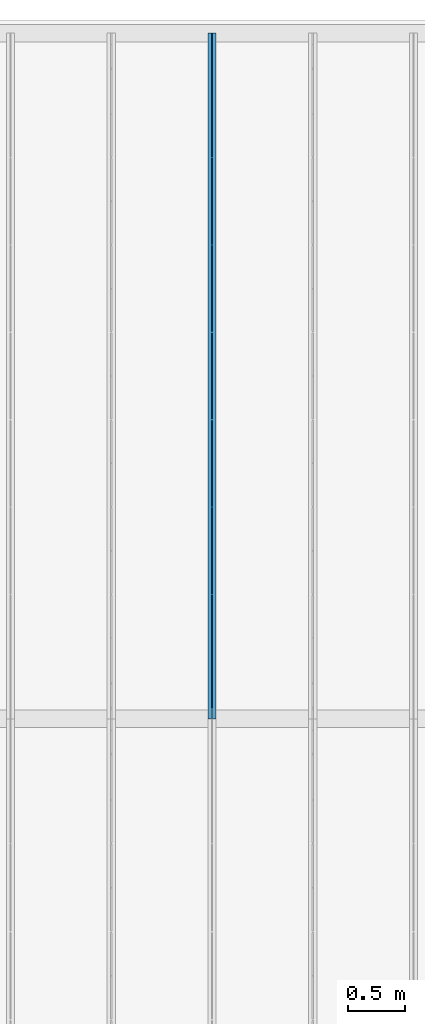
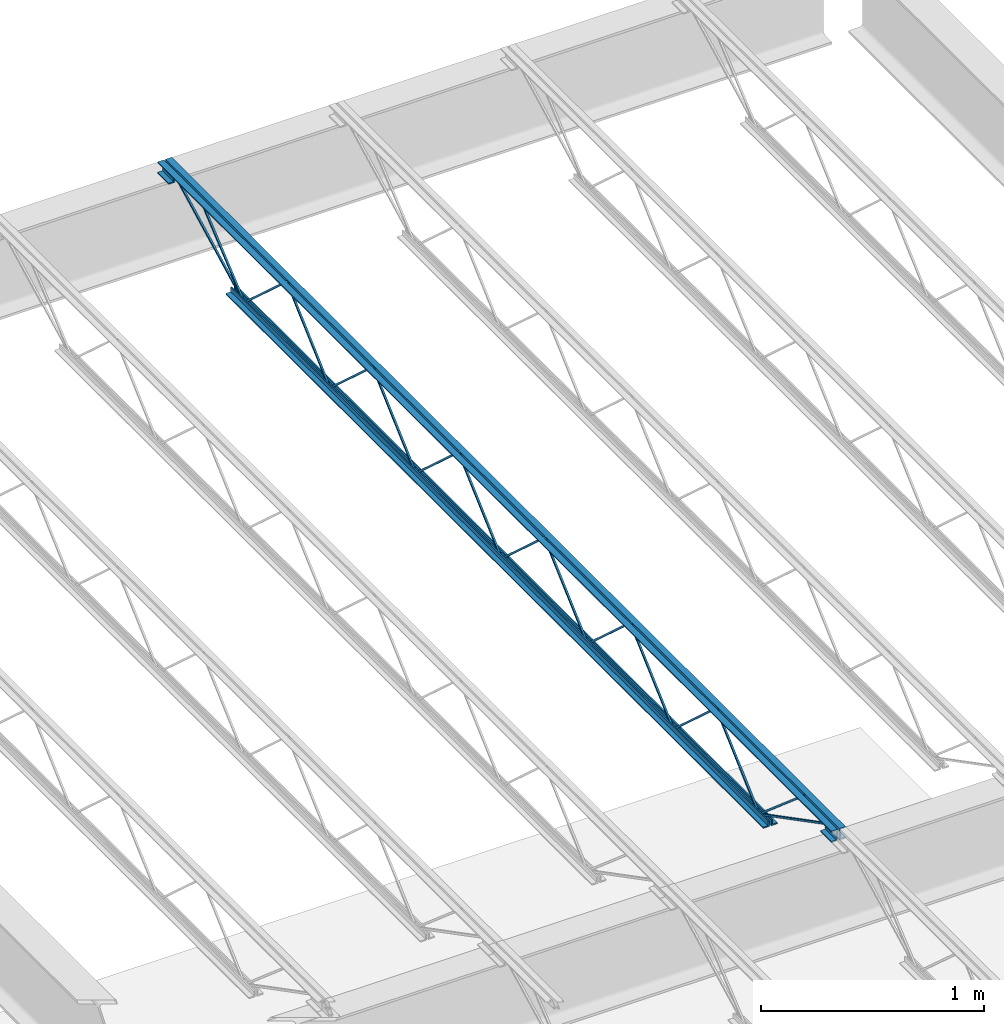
# One storey, part 51 of 75: 1 beam.
"""IFC2X3 building model written with IfcOpenShell, lengths in metres."""

from ifc_helpers import new_model, entity, si_unit, converted_unit, frame, origin, place, context, project, spatial, face_set, surface_model, element, save


model = new_model("IFC2X3")

# Units and contexts
model_context = context("Model", 3, precision=1e-09, world=origin())
plan_context = context("Plan", 3, precision=1e-09, world=origin())
ifc_project = project(units=[si_unit("LENGTHUNIT", "METRE"), si_unit("AREAUNIT", "SQUARE_METRE"), si_unit("VOLUMEUNIT", "CUBIC_METRE"), converted_unit("PLANEANGLEUNIT", "DEGREE", entity("IfcRatioMeasure", 0.01745329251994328), si_unit("PLANEANGLEUNIT", "RADIAN"), dimensions=[0, 0, 0, 0, 0, 0, 0]), si_unit("TIMEUNIT", "SECOND")], contexts=[model_context, plan_context])

# Site, building, storey
site_placement = place(None, origin())
site = spatial("IfcSite", under=ifc_project, at=site_placement, Name="Default", CompositionType="ELEMENT")
building_placement = place(site_placement, origin())
building = spatial("IfcBuilding", under=site, at=building_placement, CompositionType="ELEMENT")
storey_placement = place(building_placement, origin())
storey = spatial("IfcBuildingStorey", under=building, at=storey_placement, Name="First Floor", CompositionType="ELEMENT", Elevation=-3.531500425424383e-13)

# Beam
beam_placement = place(storey_placement, frame((-30.03174999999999, 50.09000000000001, 4.112000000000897), z_axis=(0.0, 0.0, 1.0), x_axis=(-1.0, 0.0, 0.0)))
element("IfcBeam", 1, at=beam_placement, inside=storey, Name="M_K-Series Bar Joist-Rod Web:14K1:14K1", ObjectType="M_K-Series Bar Joist-Rod Web:14K1", context=model_context, shape_type="SurfaceModel", body=[
    surface_model("IfcFaceBasedSurfaceModel", [(-0.03200000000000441, -2.254000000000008, 0.01110000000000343), (-0.04150000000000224, -2.254000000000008, 0.01110000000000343), (-0.04150000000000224, -2.254000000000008, 0.001600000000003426), (-0.03200000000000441, -2.254000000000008, 0.001600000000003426), (-0.04150000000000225, -2.252655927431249, 0.01110000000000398), (-0.03200000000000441, -2.252655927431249, 0.01110000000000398), (-0.04150000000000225, -2.248994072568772, 0.001600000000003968), (-0.04150000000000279, -1.869844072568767, 0.3449000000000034), (-0.0415000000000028, -1.86715592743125, 0.3449000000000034), (-0.04149999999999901, -1.48800592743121, 0.001600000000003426), (-0.04149999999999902, -1.483000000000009, 0.001600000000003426), (-0.04150000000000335, -1.483000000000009, 0.01110000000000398), (-0.04150000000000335, -1.484344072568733, 0.01110000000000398), (-0.04150000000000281, -1.863494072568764, 0.3544000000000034), (-0.04150000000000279, -1.873505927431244, 0.3544000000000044), (-0.03200000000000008, -2.248994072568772, 0.001600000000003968), (-0.03200000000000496, -1.869844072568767, 0.3449000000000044), (-0.03200000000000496, -1.86715592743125, 0.3449000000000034), (-0.0320000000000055, -1.48800592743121, 0.001600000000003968), (-0.03200000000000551, -1.483000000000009, 0.001600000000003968), (-0.03200000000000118, -1.483000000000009, 0.01110000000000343), (-0.03200000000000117, -1.484344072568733, 0.01110000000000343), (-0.03200000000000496, -1.863494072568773, 0.3544000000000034), (-0.03200000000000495, -1.873505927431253, 0.3544000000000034), (-0.0320000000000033, -3.025000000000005, 0.01110000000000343), (-0.04150000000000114, -3.025000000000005, 0.01110000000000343), (-0.04150000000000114, -3.025000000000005, 0.001600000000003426), (-0.0320000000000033, -3.025000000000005, 0.001600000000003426), (-0.04150000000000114, -3.023655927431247, 0.01110000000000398), (-0.0320000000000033, -3.023655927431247, 0.01110000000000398), (-0.04150000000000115, -3.01999407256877, 0.001600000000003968), (-0.04150000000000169, -2.640844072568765, 0.3449000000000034), (-0.04150000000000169, -2.638155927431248, 0.3449000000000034), (-0.04150000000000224, -2.259005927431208, 0.001600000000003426), (-0.04150000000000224, -2.254000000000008, 0.01110000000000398), (-0.04150000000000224, -2.255344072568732, 0.01110000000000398), (-0.0415000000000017, -2.634494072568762, 0.3544000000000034), (-0.04150000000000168, -2.644505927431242, 0.3544000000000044), (-0.03199999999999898, -3.01999407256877, 0.001600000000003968), (-0.03200000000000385, -2.640844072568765, 0.3449000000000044), (-0.03200000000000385, -2.638155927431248, 0.3449000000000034), (-0.03200000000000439, -2.259005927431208, 0.001600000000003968), (-0.03200000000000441, -2.254000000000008, 0.001600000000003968), (-0.0320000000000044, -2.255344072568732, 0.01110000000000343), (-0.03200000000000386, -2.634494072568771, 0.3544000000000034), (-0.03200000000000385, -2.644505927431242, 0.3544000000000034), (-0.03200000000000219, -3.796000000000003, 0.01110000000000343), (-0.04150000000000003, -3.796000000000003, 0.01110000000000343), (-0.04150000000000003, -3.796000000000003, 0.001600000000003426), (-0.03200000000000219, -3.796000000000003, 0.001600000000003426), (-0.04150000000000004, -3.794655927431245, 0.01110000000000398), (-0.03200000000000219, -3.794655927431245, 0.01110000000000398), (-0.04150000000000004, -3.790994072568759, 0.001600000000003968), (-0.04150000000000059, -3.411844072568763, 0.3449000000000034), (-0.04150000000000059, -3.409155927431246, 0.3449000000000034), (-0.04150000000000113, -3.030005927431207, 0.001600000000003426), (-0.04150000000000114, -3.025000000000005, 0.01110000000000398), (-0.04150000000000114, -3.026344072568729, 0.01110000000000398), (-0.0415000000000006, -3.40549407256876, 0.3544000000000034), (-0.04150000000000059, -3.41550592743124, 0.3544000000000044), (-0.03199999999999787, -3.790994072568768, 0.001600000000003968), (-0.03200000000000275, -3.411844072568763, 0.3449000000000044), (-0.03200000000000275, -3.409155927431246, 0.3449000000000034), (-0.03200000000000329, -3.030005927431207, 0.001600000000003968), (-0.0320000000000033, -3.025000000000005, 0.001600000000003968), (-0.0320000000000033, -3.026344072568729, 0.01110000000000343), (-0.03200000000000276, -3.40549407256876, 0.3544000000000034), (-0.03200000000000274, -3.41550592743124, 0.3544000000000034), (-0.03200000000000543, -4.567000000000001, 0.01110000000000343), (-0.04150000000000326, -4.567000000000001, 0.01110000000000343), (-0.04150000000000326, -4.567000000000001, 0.001600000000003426), (-0.03200000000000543, -4.567000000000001, 0.001600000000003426), (-0.04150000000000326, -4.565655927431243, 0.01110000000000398), (-0.03200000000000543, -4.565655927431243, 0.01110000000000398), (-0.04150000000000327, -4.561994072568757, 0.001600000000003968), (-0.04149999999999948, -4.182844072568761, 0.3449000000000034), (-0.04149999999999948, -4.180155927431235, 0.3449000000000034), (-0.04150000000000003, -3.801005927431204, 0.001600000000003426), (-0.04150000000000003, -3.795999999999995, 0.001600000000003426), (-0.04150000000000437, -3.796000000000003, 0.01110000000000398), (-0.04150000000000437, -3.797344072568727, 0.01110000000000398), (-0.04150000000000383, -4.176494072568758, 0.3544000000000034), (-0.04150000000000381, -4.186505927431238, 0.3544000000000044), (-0.0320000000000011, -4.561994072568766, 0.001600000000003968), (-0.03200000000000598, -4.182844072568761, 0.3449000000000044), (-0.03200000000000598, -4.180155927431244, 0.3449000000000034), (-0.03200000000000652, -3.801005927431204, 0.001600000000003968), (-0.03200000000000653, -3.796000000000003, 0.001600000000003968), (-0.03200000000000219, -3.795999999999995, 0.01110000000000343), (-0.03200000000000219, -3.797344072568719, 0.01110000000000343), (-0.03200000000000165, -4.176494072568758, 0.3544000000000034), (-0.03200000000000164, -4.186505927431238, 0.3544000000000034), (-0.03200000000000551, -1.483000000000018, 0.01109999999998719), (-0.04150000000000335, -1.483000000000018, 0.01109999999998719), (-0.04150000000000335, -1.483000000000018, 0.001599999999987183), (-0.03200000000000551, -1.483000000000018, 0.001599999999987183), (-0.04149999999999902, -1.48165592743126, 0.01109999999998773), (-0.03200000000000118, -1.48165592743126, 0.01109999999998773), (-0.04150000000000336, -1.477994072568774, 0.001599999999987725), (-0.0415000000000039, -1.098844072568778, 0.3448999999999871), (-0.0415000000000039, -1.096155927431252, 0.3448999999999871), (-0.04150000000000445, -0.717005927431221, 0.001599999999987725), (-0.04150000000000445, -0.7120000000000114, 0.001599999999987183), (-0.04150000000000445, -0.7120000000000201, 0.01109999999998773), (-0.04150000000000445, -0.713344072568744, 0.01109999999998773), (-0.04150000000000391, -1.092494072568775, 0.3543999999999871), (-0.04150000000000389, -1.102505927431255, 0.3543999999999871), (-0.03200000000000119, -1.477994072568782, 0.001599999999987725), (-0.03200000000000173, -1.098844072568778, 0.3448999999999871), (-0.03200000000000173, -1.09615592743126, 0.3448999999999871), (-0.03200000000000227, -0.717005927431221, 0.001599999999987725), (-0.03200000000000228, -0.7120000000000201, 0.001599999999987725), (-0.03200000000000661, -0.7120000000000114, 0.01109999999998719), (-0.03200000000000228, -0.7133440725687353, 0.01109999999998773), (-0.03200000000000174, -1.092494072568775, 0.3543999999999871), (-0.03200000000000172, -1.102505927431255, 0.3543999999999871), (-0.03200000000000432, -5.33799999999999, 0.01110000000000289), (-0.04150000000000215, -5.33799999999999, 0.01110000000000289), (-0.04150000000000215, -5.33799999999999, 0.001600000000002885), (-0.03200000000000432, -5.33799999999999, 0.001600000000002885), (-0.04150000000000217, -5.336655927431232, 0.01110000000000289), (-0.03200000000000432, -5.336655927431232, 0.01110000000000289), (-0.04150000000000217, -5.332994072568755, 0.001600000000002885), (-0.04150000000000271, -4.95384407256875, 0.3449000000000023), (-0.04150000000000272, -4.951155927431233, 0.3449000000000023), (-0.04150000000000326, -4.572005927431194, 0.001600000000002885), (-0.04150000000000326, -4.566999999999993, 0.001600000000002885), (-0.04150000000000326, -4.566999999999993, 0.01110000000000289), (-0.04150000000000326, -4.568344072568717, 0.01110000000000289), (-0.04150000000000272, -4.947494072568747, 0.3544000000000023), (-0.04150000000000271, -4.957505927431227, 0.3544000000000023), (-0.03199999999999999, -5.332994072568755, 0.001600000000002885), (-0.03200000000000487, -4.95384407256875, 0.3449000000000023), (-0.03200000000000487, -4.951155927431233, 0.3449000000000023), (-0.03200000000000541, -4.572005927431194, 0.001600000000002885), (-0.03200000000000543, -4.566999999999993, 0.001600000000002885), (-0.03200000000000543, -4.566999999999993, 0.01110000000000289), (-0.03200000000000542, -4.568344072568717, 0.01110000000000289), (-0.03200000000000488, -4.947494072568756, 0.3544000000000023), (-0.03200000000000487, -4.957505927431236, 0.3544000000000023), (-0.04150000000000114, 0.0, 0.3559999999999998), (-0.07350000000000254, 0.0, 0.3559999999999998), (-0.07350000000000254, 0.0, 0.349499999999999), (-0.04799999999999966, 0.0, 0.349499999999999), (-0.04799999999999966, 0.0, 0.3239999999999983), (-0.04150000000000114, 0.0, 0.3239999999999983), (-0.0320000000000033, 0.0, 0.3559999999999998), (-0.0320000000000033, 0.0, 0.3239999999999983), (-0.02550000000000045, 0.0, 0.3239999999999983), (-0.02550000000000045, 0.0, 0.349499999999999), (0.0, 0.0, 0.349499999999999), (0.0, 0.0, 0.3559999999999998), (-0.04150000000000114, -6.049999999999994, 0.3559999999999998), (-0.07350000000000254, -6.049999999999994, 0.3559999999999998), (-0.07350000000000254, -6.049999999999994, 0.349499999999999), (-0.04799999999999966, -6.049999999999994, 0.349499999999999), (-0.04799999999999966, -6.049999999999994, 0.3239999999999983), (-0.04150000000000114, -6.049999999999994, 0.3239999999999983), (-0.0320000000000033, -6.049999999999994, 0.3559999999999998), (-0.0320000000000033, -6.049999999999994, 0.3239999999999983), (-0.02550000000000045, -6.049999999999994, 0.3239999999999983), (-0.02550000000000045, -6.049999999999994, 0.349499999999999), (0.0, -6.049999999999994, 0.349499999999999), (0.0, -6.049999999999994, 0.3559999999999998), (-0.03200000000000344, -5.950000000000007, 0.2924999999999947), (0.0, -5.950000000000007, 0.2924999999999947), (0.0, -5.950000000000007, 0.2989999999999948), (-0.02550000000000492, -5.950000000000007, 0.2989999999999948), (-0.02550000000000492, -5.950000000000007, 0.3239999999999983), (-0.03200000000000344, -5.950000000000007, 0.3239999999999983), (-0.07350000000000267, -5.950000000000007, 0.2924999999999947), (-0.04150000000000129, -5.950000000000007, 0.2924999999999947), (-0.04150000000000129, -5.950000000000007, 0.3239999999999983), (-0.04800000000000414, -5.950000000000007, 0.3239999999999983), (-0.04800000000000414, -5.950000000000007, 0.2989999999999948), (-0.07350000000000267, -5.950000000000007, 0.2989999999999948), (-0.0320000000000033, -6.049999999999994, 0.2924999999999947), (0.0, -6.049999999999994, 0.2924999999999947), (0.0, -6.049999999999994, 0.2989999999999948), (-0.02550000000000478, -6.049999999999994, 0.2989999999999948), (-0.02550000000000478, -6.049999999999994, 0.3239999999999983), (-0.07350000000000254, -6.049999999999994, 0.2924999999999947), (-0.04150000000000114, -6.049999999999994, 0.2924999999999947), (-0.048000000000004, -6.049999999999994, 0.3239999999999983), (-0.048000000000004, -6.049999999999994, 0.2989999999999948), (-0.07350000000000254, -6.049999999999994, 0.2989999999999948), (-0.04150000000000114, 0.0, 0.2924999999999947), (-0.048000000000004, 0.0, 0.3239999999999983), (-0.048000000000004, 0.0, 0.2989999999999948), (-0.07350000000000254, 0.0, 0.2989999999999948), (-0.07350000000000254, 0.0, 0.2924999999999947), (-0.0320000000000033, 0.0, 0.2924999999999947), (0.0, 0.0, 0.2924999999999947), (0.0, 0.0, 0.2989999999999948), (-0.02550000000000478, 0.0, 0.2989999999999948), (-0.02550000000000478, 0.0, 0.3239999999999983), (-0.04150000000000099, -0.0999999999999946, 0.2924999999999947), (-0.04150000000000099, -0.0999999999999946, 0.3239999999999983), (-0.04800000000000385, -0.0999999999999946, 0.3239999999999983), (-0.04800000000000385, -0.0999999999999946, 0.2989999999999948), (-0.07350000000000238, -0.0999999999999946, 0.2989999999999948), (-0.07350000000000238, -0.0999999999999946, 0.2924999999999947), (-0.03200000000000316, -0.0999999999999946, 0.2924999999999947), (0.0, -0.0999999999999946, 0.2924999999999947), (0.0, -0.0999999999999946, 0.2989999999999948), (-0.02550000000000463, -0.0999999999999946, 0.2989999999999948), (-0.02550000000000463, -0.0999999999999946, 0.3239999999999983), (-0.03200000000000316, -0.0999999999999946, 0.3239999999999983), (-0.04150000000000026, -0.6119999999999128, 0.0), (-0.04150000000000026, -0.6119999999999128, 0.03199999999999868), (-0.04799999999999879, -0.6119999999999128, 0.03199999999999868), (-0.04799999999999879, -0.6119999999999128, 0.006499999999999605), (-0.07350000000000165, -0.6119999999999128, 0.006499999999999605), (-0.07350000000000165, -0.6119999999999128, 0.0), (-0.03200000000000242, -0.6119999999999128, 0.0), (0.0, -0.6119999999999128, 0.0), (0.0, -0.6119999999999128, 0.006499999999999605), (-0.02549999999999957, -0.6119999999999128, 0.006499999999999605), (-0.02549999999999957, -0.6119999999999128, 0.03199999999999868), (-0.03200000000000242, -0.6119999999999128, 0.03199999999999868), (-0.04150000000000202, -5.437999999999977, 0.0), (-0.04150000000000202, -5.437999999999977, 0.03199999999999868), (-0.04800000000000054, -5.437999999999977, 0.03199999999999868), (-0.04800000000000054, -5.437999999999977, 0.006499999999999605), (-0.07350000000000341, -5.437999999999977, 0.006499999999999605), (-0.07350000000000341, -5.437999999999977, 0.0), (-0.03200000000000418, -5.437999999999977, 0.0), (0.0, -5.437999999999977, 0.0), (0.0, -5.437999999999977, 0.006499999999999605), (-0.02550000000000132, -5.437999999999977, 0.006499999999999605), (-0.02550000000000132, -5.437999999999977, 0.03199999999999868), (-0.03200000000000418, -5.437999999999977, 0.03199999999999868), (-0.03200000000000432, -5.335811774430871, 0.01056594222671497), (-0.04150000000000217, -5.335811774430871, 0.01056594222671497), (-0.04150000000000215, -5.34018822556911, 0.002134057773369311), (-0.03200000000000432, -5.34018822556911, 0.002134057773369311), (-0.03200000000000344, -5.948840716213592, 0.3287499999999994), (-0.0320000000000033, -6.049999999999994, 0.3287499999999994), (-0.0320000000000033, -6.049999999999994, 0.3192499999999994), (-0.03200000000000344, -5.951159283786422, 0.3192499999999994), (-0.04150000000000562, -5.951159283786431, 0.3192499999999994), (-0.04150000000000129, -5.948840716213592, 0.3287499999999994), (-0.04150000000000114, -6.049999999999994, 0.3287499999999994), (-0.04150000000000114, -6.049999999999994, 0.3192499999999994), (-0.03200000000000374, -5.743457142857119, 0.341700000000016), (-0.04150000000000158, -5.743457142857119, 0.341700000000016), (-0.04150000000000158, -5.743457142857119, 0.332200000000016), (-0.03200000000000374, -5.743457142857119, 0.332200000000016), (-0.0415000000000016, -5.729024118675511, 0.341700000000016), (-0.03200000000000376, -5.729024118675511, 0.341700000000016), (-0.0415000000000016, -5.732490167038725, 0.332200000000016), (-0.04150000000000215, -5.341058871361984, 0.002716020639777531), (-0.04150000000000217, -5.334941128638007, 0.009983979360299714), (-0.03199999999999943, -5.732490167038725, 0.332200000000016), (-0.03200000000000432, -5.341058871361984, 0.002716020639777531), (-0.03200000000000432, -5.334941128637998, 0.009983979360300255), (-0.03200000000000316, -0.09781177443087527, 0.3197840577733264), (-0.03200000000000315, -0.1021882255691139, 0.3282159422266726), (-0.04150000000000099, -0.1021882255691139, 0.3282159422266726), (-0.04150000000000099, -0.09781177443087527, 0.3197840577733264), (-0.03200000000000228, -0.7098117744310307, 0.002134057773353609), (-0.03200000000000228, -0.7141882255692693, 0.01056594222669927), (-0.04150000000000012, -0.7141882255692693, 0.01056594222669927), (-0.04150000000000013, -0.7098117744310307, 0.002134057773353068), (-0.03200000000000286, -0.3088922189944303, 0.3460454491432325), (-0.03200000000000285, -0.3150792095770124, 0.3532545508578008), (-0.04150000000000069, -0.3150792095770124, 0.3532545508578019), (-0.0415000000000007, -0.3088922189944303, 0.3460454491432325), (-0.03200000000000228, -0.7089065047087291, 0.002745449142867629), (-0.03200000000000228, -0.715093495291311, 0.009954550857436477), (-0.04150000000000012, -0.715093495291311, 0.009954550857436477), (-0.04150000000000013, -0.7089065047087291, 0.002745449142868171)], [face_set([[[0, 1, 2, 3]], [[1, 4, 5, 0]], [[2, 6, 7, 8, 9, 10, 11, 12, 13, 14, 4, 1]], [[3, 2, 6, 15]], [[0, 3, 15, 16, 17, 18, 19, 20, 21, 22, 23, 5]], [[4, 5, 23, 14]], [[15, 16, 7, 6]], [[14, 13, 22, 23]], [[16, 7, 8, 17]], [[13, 12, 21, 22]], [[17, 8, 9, 18]], [[20, 11, 10, 19]], [[12, 11, 20, 21]], [[18, 9, 10, 19]]]), face_set([[[24, 25, 26, 27]], [[25, 28, 29, 24]], [[26, 30, 31, 32, 33, 2, 34, 35, 36, 37, 28, 25]], [[27, 26, 30, 38]], [[24, 27, 38, 39, 40, 41, 42, 0, 43, 44, 45, 29]], [[28, 29, 45, 37]], [[38, 39, 31, 30]], [[37, 36, 44, 45]], [[39, 31, 32, 40]], [[36, 35, 43, 44]], [[40, 32, 33, 41]], [[0, 34, 2, 42]], [[35, 34, 0, 43]], [[41, 33, 2, 42]]]), face_set([[[46, 47, 48, 49]], [[47, 50, 51, 46]], [[48, 52, 53, 54, 55, 26, 56, 57, 58, 59, 50, 47]], [[49, 48, 52, 60]], [[46, 49, 60, 61, 62, 63, 64, 24, 65, 66, 67, 51]], [[50, 51, 67, 59]], [[60, 61, 53, 52]], [[59, 58, 66, 67]], [[61, 53, 54, 62]], [[58, 57, 65, 66]], [[62, 54, 55, 63]], [[24, 56, 26, 64]], [[57, 56, 24, 65]], [[63, 55, 26, 64]]]), face_set([[[68, 69, 70, 71]], [[69, 72, 73, 68]], [[70, 74, 75, 76, 77, 78, 79, 80, 81, 82, 72, 69]], [[71, 70, 74, 83]], [[68, 71, 83, 84, 85, 86, 87, 88, 89, 90, 91, 73]], [[72, 73, 91, 82]], [[83, 84, 75, 74]], [[82, 81, 90, 91]], [[84, 75, 76, 85]], [[81, 80, 89, 90]], [[85, 76, 77, 86]], [[88, 79, 78, 87]], [[80, 79, 88, 89]], [[86, 77, 78, 87]]]), face_set([[[92, 93, 94, 95]], [[93, 96, 97, 92]], [[94, 98, 99, 100, 101, 102, 103, 104, 105, 106, 96, 93]], [[95, 94, 98, 107]], [[92, 95, 107, 108, 109, 110, 111, 112, 113, 114, 115, 97]], [[96, 97, 115, 106]], [[107, 108, 99, 98]], [[106, 105, 114, 115]], [[108, 99, 100, 109]], [[105, 104, 113, 114]], [[109, 100, 101, 110]], [[112, 103, 102, 111]], [[104, 103, 112, 113]], [[110, 101, 102, 111]]]), face_set([[[116, 117, 118, 119]], [[117, 120, 121, 116]], [[118, 122, 123, 124, 125, 126, 127, 128, 129, 130, 120, 117]], [[119, 118, 122, 131]], [[116, 119, 131, 132, 133, 134, 135, 136, 137, 138, 139, 121]], [[120, 121, 139, 130]], [[131, 132, 123, 122]], [[130, 129, 138, 139]], [[132, 123, 124, 133]], [[129, 128, 137, 138]], [[133, 124, 125, 134]], [[136, 127, 126, 135]], [[128, 127, 136, 137]], [[134, 125, 126, 135]]]), face_set([[[140, 141, 142, 143, 144, 145]], [[146, 147, 148, 149, 150, 151]], [[152, 153, 154, 155, 156, 157]], [[158, 159, 160, 161, 162, 163]], [[145, 140, 152, 157]], [[144, 145, 157, 156]], [[143, 155, 156, 144]], [[142, 143, 155, 154]], [[141, 153, 154, 142]], [[140, 152, 153, 141]], [[151, 163, 158, 146]], [[150, 151, 163, 162]], [[149, 150, 162, 161]], [[148, 149, 161, 160]], [[147, 148, 160, 159]], [[146, 158, 159, 147]]]), face_set([[[164, 165, 166, 167, 168, 169]], [[170, 171, 172, 173, 174, 175]], [[176, 177, 178, 179, 180, 159]], [[181, 182, 157, 183, 184, 185]], [[169, 159, 176, 164]], [[168, 180, 159, 169]], [[167, 168, 180, 179]], [[166, 178, 179, 167]], [[165, 166, 178, 177]], [[164, 165, 177, 176]], [[175, 185, 181, 170]], [[174, 184, 185, 175]], [[173, 183, 184, 174]], [[172, 157, 183, 173]], [[171, 172, 157, 182]], [[170, 171, 182, 181]]]), face_set([[[186, 145, 187, 188, 189, 190]], [[191, 192, 193, 194, 195, 147]], [[196, 197, 198, 199, 200, 201]], [[202, 203, 204, 205, 206, 207]], [[190, 186, 196, 201]], [[189, 200, 201, 190]], [[188, 199, 200, 189]], [[187, 198, 199, 188]], [[145, 197, 198, 187]], [[186, 145, 197, 196]], [[147, 207, 202, 191]], [[195, 206, 207, 147]], [[194, 195, 206, 205]], [[193, 204, 205, 194]], [[192, 193, 204, 203]], [[191, 192, 203, 202]]]), face_set([[[208, 209, 210, 211, 212, 213]], [[214, 215, 216, 217, 218, 219]], [[220, 221, 222, 223, 224, 225]], [[226, 227, 228, 229, 230, 231]], [[213, 208, 220, 225]], [[212, 224, 225, 213]], [[211, 223, 224, 212]], [[210, 222, 223, 211]], [[209, 221, 222, 210]], [[208, 209, 221, 220]], [[219, 231, 226, 214]], [[218, 230, 231, 219]], [[217, 218, 230, 229]], [[216, 228, 229, 217]], [[215, 216, 228, 227]], [[214, 215, 227, 226]]]), face_set([[[232, 233, 234, 235]], [[235, 232, 236, 237, 238, 239]], [[234, 235, 239, 240]], [[233, 241, 242, 243, 240, 234]], [[232, 236, 241, 233]], [[237, 242, 243, 238]], [[240, 239, 238, 243]], [[236, 237, 242, 241]]]), face_set([[[244, 245, 246, 247]], [[245, 248, 249, 244]], [[246, 250, 251, 252, 248, 245]], [[247, 246, 250, 253]], [[244, 247, 253, 254, 255, 249]], [[255, 252, 251, 254]], [[248, 252, 255, 249]], [[253, 250, 251, 254]]]), face_set([[[256, 257, 258, 259]], [[260, 261, 262, 263]], [[259, 263, 260, 256]], [[258, 262, 263, 259]], [[257, 258, 262, 261]], [[256, 257, 261, 260]]]), face_set([[[264, 265, 266, 267]], [[268, 269, 270, 271]], [[267, 271, 268, 264]], [[266, 270, 271, 267]], [[265, 266, 270, 269]], [[264, 265, 269, 268]]])]),
])

save(model, "model.ifc")
